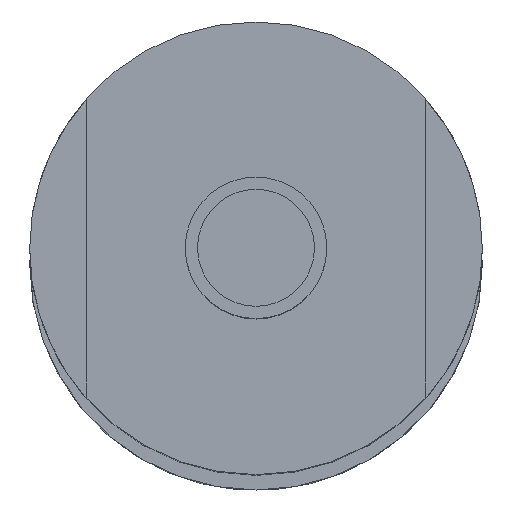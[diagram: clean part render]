
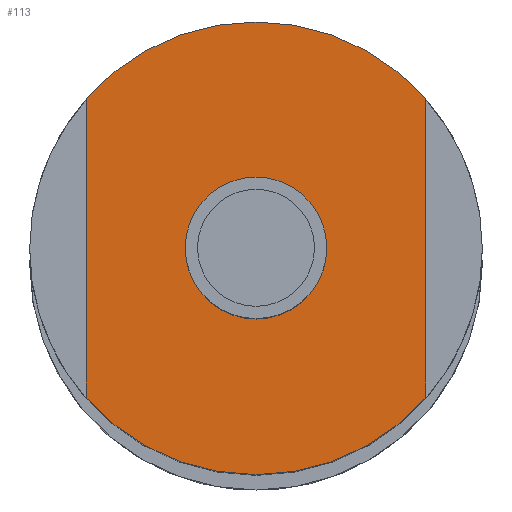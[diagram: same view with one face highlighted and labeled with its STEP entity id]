
A CAD part, top view. The second image highlights one B-rep face of the part: STEP entity #113.
In plain terms, the highlighted planar face has unit normal (0, 0, 1).
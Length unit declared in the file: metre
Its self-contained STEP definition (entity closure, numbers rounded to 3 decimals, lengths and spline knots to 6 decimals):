
#113=ADVANCED_FACE('17:304',(#222,#223),#224,.T.);
#222=FACE_BOUND('',#340,.T.);
#223=FACE_OUTER_BOUND('',#341,.T.);
#224=PLANE('',#342);
#340=EDGE_LOOP('',(#550,#551));
#341=EDGE_LOOP('',(#552,#553,#554,#555,#556,#557));
#342=AXIS2_PLACEMENT_3D('',#558,#559,#560);
#550=ORIENTED_EDGE('',*,*,#643,.T.);
#551=ORIENTED_EDGE('',*,*,#714,.T.);
#552=ORIENTED_EDGE('',*,*,#716,.F.);
#553=ORIENTED_EDGE('',*,*,#653,.F.);
#554=ORIENTED_EDGE('',*,*,#652,.F.);
#555=ORIENTED_EDGE('',*,*,#701,.T.);
#556=ORIENTED_EDGE('',*,*,#708,.F.);
#557=ORIENTED_EDGE('',*,*,#707,.F.);
#558=CARTESIAN_POINT('',(0.,0.,0.239));
#559=DIRECTION('',(0.0,0.0,1.0));
#560=DIRECTION('',(1.0,0.0,0.0));
#643=EDGE_CURVE('19:2123',#759,#756,#760,.F.);
#652=EDGE_CURVE('17:354',#774,#776,#777,.F.);
#653=EDGE_CURVE('17:345',#776,#778,#779,.F.);
#701=EDGE_CURVE('17:844',#774,#849,#850,.T.);
#707=EDGE_CURVE('17:351',#857,#859,#860,.F.);
#708=EDGE_CURVE('17:342',#859,#849,#861,.F.);
#714=EDGE_CURVE('',#756,#759,#867,.F.);
#716=EDGE_CURVE('17:790',#778,#857,#869,.F.);
#756=VERTEX_POINT('',#933);
#759=VERTEX_POINT('',#937);
#760=CIRCLE('',#938,0.0025);
#774=VERTEX_POINT('',#955);
#776=VERTEX_POINT('',#958);
#777=CIRCLE('',#959,0.008);
#778=VERTEX_POINT('',#960);
#779=CIRCLE('',#961,0.008);
#849=VERTEX_POINT('',#1046);
#850=LINE('',#1047,#1048);
#857=VERTEX_POINT('',#1057);
#859=VERTEX_POINT('',#1060);
#860=CIRCLE('',#1061,0.008);
#861=CIRCLE('',#1062,0.008);
#867=CIRCLE('',#1068,0.0025);
#869=LINE('',#1070,#1071);
#933=CARTESIAN_POINT('',(0.00239,0.000133,0.239));
#937=CARTESIAN_POINT('',(-0.00261,0.000133,0.239));
#938=AXIS2_PLACEMENT_3D('',#1144,#1145,#1146);
#955=CARTESIAN_POINT('',(-0.00611,0.005425,0.239));
#958=CARTESIAN_POINT('',(-0.00011,0.008133,0.239));
#959=AXIS2_PLACEMENT_3D('',#1160,#1161,#1162);
#960=CARTESIAN_POINT('',(0.00589,0.005425,0.239));
#961=AXIS2_PLACEMENT_3D('',#1163,#1164,#1165);
#1046=CARTESIAN_POINT('',(-0.00611,-0.005158,0.239));
#1047=CARTESIAN_POINT('',(-0.00611,0.000067,0.239));
#1048=VECTOR('',#1235,1.0);
#1057=CARTESIAN_POINT('',(0.00589,-0.005158,0.239));
#1060=CARTESIAN_POINT('',(-0.00011,-0.007867,0.239));
#1061=AXIS2_PLACEMENT_3D('',#1242,#1243,#1244);
#1062=AXIS2_PLACEMENT_3D('',#1245,#1246,#1247);
#1068=AXIS2_PLACEMENT_3D('',#1257,#1258,#1259);
#1070=CARTESIAN_POINT('',(0.00589,0.000067,0.239));
#1071=VECTOR('',#1260,1.0);
#1144=CARTESIAN_POINT('',(-0.00011,0.000133,0.239));
#1145=DIRECTION('',(0.0,0.0,1.0));
#1146=DIRECTION('',(1.0,0.0,-0.0));
#1160=CARTESIAN_POINT('',(-0.00011,0.000133,0.239));
#1161=DIRECTION('',(0.0,0.0,1.0));
#1162=DIRECTION('',(1.0,0.0,0.0));
#1163=CARTESIAN_POINT('',(-0.00011,0.000133,0.239));
#1164=DIRECTION('',(0.0,0.0,1.0));
#1165=DIRECTION('',(1.0,0.0,0.0));
#1235=DIRECTION('',(0.,-1.0,0.0));
#1242=CARTESIAN_POINT('',(-0.00011,0.000133,0.239));
#1243=DIRECTION('',(0.0,0.0,1.0));
#1244=DIRECTION('',(1.0,0.0,0.0));
#1245=CARTESIAN_POINT('',(-0.00011,0.000133,0.239));
#1246=DIRECTION('',(0.0,0.0,1.0));
#1247=DIRECTION('',(1.0,0.0,0.0));
#1257=CARTESIAN_POINT('',(-0.00011,0.000133,0.239));
#1258=DIRECTION('',(0.0,0.0,1.0));
#1259=DIRECTION('',(1.0,0.0,-0.0));
#1260=DIRECTION('',(0.,1.0,0.0));
